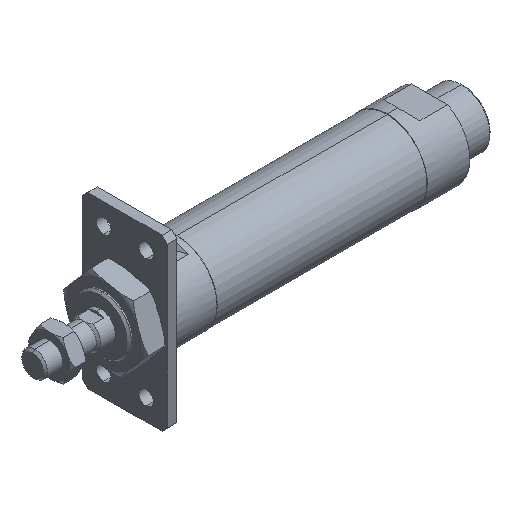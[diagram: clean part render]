
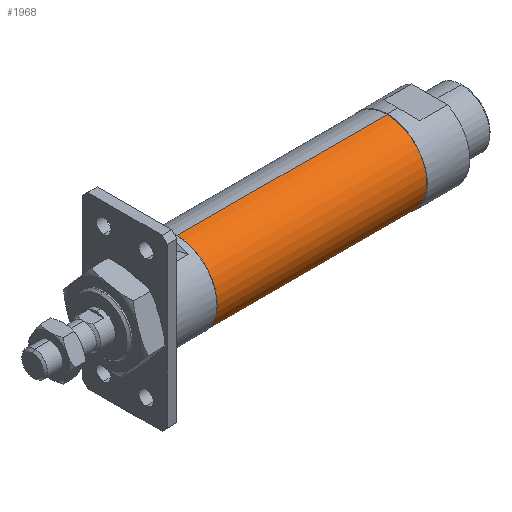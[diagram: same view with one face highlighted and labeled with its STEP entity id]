
A CAD part, isometric view. The second image highlights one B-rep face of the part: STEP entity #1968.
In plain terms, the highlighted cylindrical face has radius 18.8 mm (diameter 37.6 mm), a partial arc.
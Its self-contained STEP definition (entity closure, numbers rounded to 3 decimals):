
#27 = CARTESIAN_POINT ( 'NONE',  ( 68., 0., -18.8 ) ) ;
#105 = DIRECTION ( 'NONE',  ( 0., 0., 1. ) ) ;
#199 = AXIS2_PLACEMENT_3D ( 'NONE', #3246, #2069, #3314 ) ;
#203 = VERTEX_POINT ( 'NONE', #1879 ) ;
#219 = CARTESIAN_POINT ( 'NONE',  ( 167., 0., -18.8 ) ) ;
#295 = EDGE_CURVE ( 'NONE', #203, #2303, #1199, .T. ) ;
#309 = ORIENTED_EDGE ( 'NONE', *, *, #2832, .F. ) ;
#324 = ORIENTED_EDGE ( 'NONE', *, *, #1711, .T. ) ;
#354 = EDGE_LOOP ( 'NONE', ( #309, #324, #979, #2605 ) ) ;
#438 = FACE_OUTER_BOUND ( 'NONE', #354, .T. ) ;
#475 = AXIS2_PLACEMENT_3D ( 'NONE', #3963, #3614, #2472 ) ;
#979 = ORIENTED_EDGE ( 'NONE', *, *, #295, .T. ) ;
#1074 = AXIS2_PLACEMENT_3D ( 'NONE', #3247, #1998, #105 ) ;
#1199 = LINE ( 'NONE', #2689, #3552 ) ;
#1220 = VERTEX_POINT ( 'NONE', #219 ) ;
#1371 = LINE ( 'NONE', #3303, #2702 ) ;
#1711 = EDGE_CURVE ( 'NONE', #1220, #203, #4058, .T. ) ;
#1774 = CYLINDRICAL_SURFACE ( 'NONE', #199, 18.8 ) ;
#1879 = CARTESIAN_POINT ( 'NONE',  ( 167., 0., 18.8 ) ) ;
#1968 = ADVANCED_FACE ( 'NONE', ( #438 ), #1774, .T. ) ;
#1998 = DIRECTION ( 'NONE',  ( -1., 0., 0. ) ) ;
#2069 = DIRECTION ( 'NONE',  ( -1., 0., 0. ) ) ;
#2162 = CIRCLE ( 'NONE', #1074, 18.8 ) ;
#2303 = VERTEX_POINT ( 'NONE', #3811 ) ;
#2472 = DIRECTION ( 'NONE',  ( 0., 0., 1. ) ) ;
#2586 = DIRECTION ( 'NONE',  ( -1., 0., 0. ) ) ;
#2605 = ORIENTED_EDGE ( 'NONE', *, *, #3589, .F. ) ;
#2689 = CARTESIAN_POINT ( 'NONE',  ( -1.784, 0., 18.8 ) ) ;
#2702 = VECTOR ( 'NONE', #2586, 1000. ) ;
#2782 = VERTEX_POINT ( 'NONE', #27 ) ;
#2832 = EDGE_CURVE ( 'NONE', #1220, #2782, #1371, .T. ) ;
#3202 = DIRECTION ( 'NONE',  ( -1., 0., 0. ) ) ;
#3246 = CARTESIAN_POINT ( 'NONE',  ( -1.784, 0., 0. ) ) ;
#3247 = CARTESIAN_POINT ( 'NONE',  ( 68., 0., 0. ) ) ;
#3303 = CARTESIAN_POINT ( 'NONE',  ( -1.784, 0., -18.8 ) ) ;
#3314 = DIRECTION ( 'NONE',  ( 0., 0., 1. ) ) ;
#3552 = VECTOR ( 'NONE', #3202, 1000. ) ;
#3589 = EDGE_CURVE ( 'NONE', #2782, #2303, #2162, .T. ) ;
#3614 = DIRECTION ( 'NONE',  ( -1., 0., 0. ) ) ;
#3811 = CARTESIAN_POINT ( 'NONE',  ( 68., 0., 18.8 ) ) ;
#3963 = CARTESIAN_POINT ( 'NONE',  ( 167., 0., 0. ) ) ;
#4058 = CIRCLE ( 'NONE', #475, 18.8 ) ;
